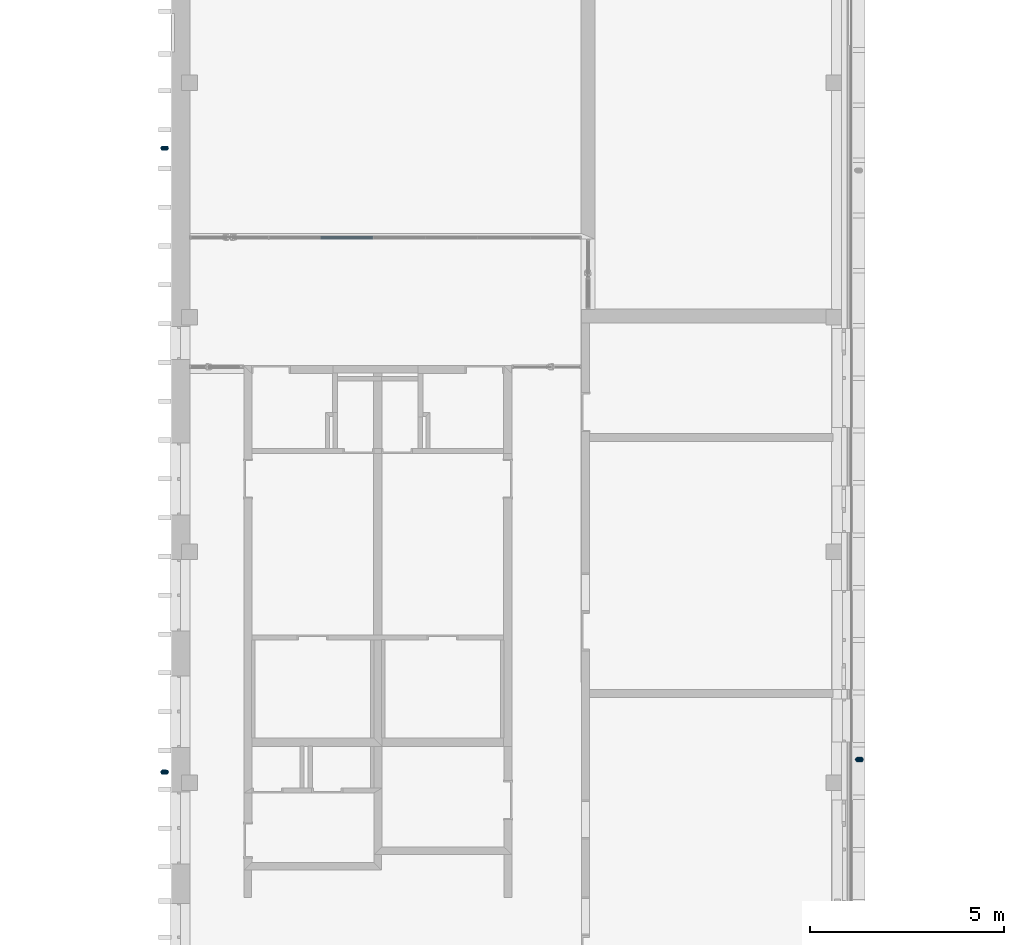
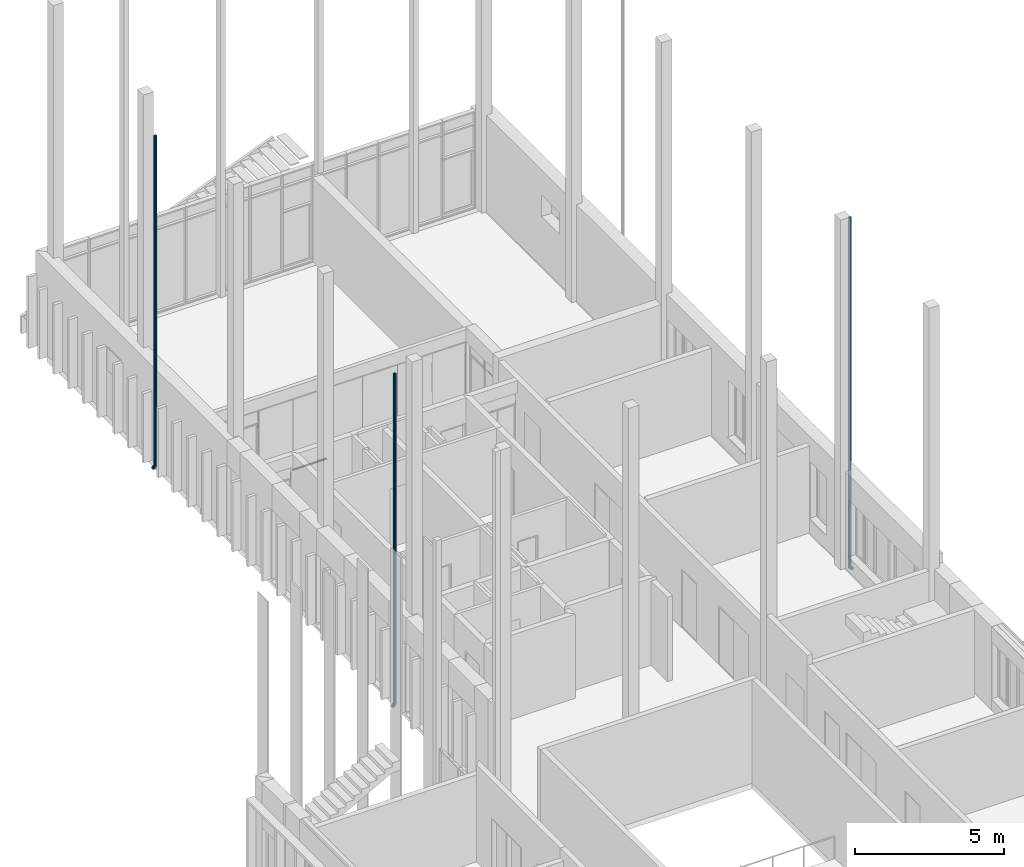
# One storey, part 22 of 89: 3 discrete accessories, 2 building element parts, 2 elements without a shape of their own.
"""IFC2X3 building model written with IfcOpenShell, lengths in millimetres."""

import ifcopenshell
import ifcopenshell.guid

model = None  # the IFC model being written
_history = None  # IfcOwnerHistory: only IFC2X3 demands one
_inside = {}  # id of a spatial element -> (the spatial element, [elements in it])
_under = {}  # id of a project, library or spatial element -> (it, [spatial elements below it])
_declared = {}  # id of a project -> (the project, [libraries it declares])
_typed = {}  # id of a type object -> (the type object, [elements of that type])
_made_of = {}  # id of a material, layer set ... -> (it, [elements and type objects made of it])


def new_model(schema):
    """Start an empty IFC model of exactly this schema.

    Asked for "IFC4X3", IfcOpenShell would pick the latest addendum, in which some entities
    have other attributes; the version numbers below select the first issue.
    IFC2X3 requires an IfcOwnerHistory on every rooted entity: one is made here for all.
    """
    global model, _history
    if schema == "IFC4X3":
        model = ifcopenshell.file(schema_version=(4, 3, 0, 0))
    else:
        model = ifcopenshell.file(schema=schema)
    _inside.clear()
    _under.clear()
    _declared.clear()
    _typed.clear()
    _made_of.clear()
    _history = None
    if model.schema == "IFC2X3":
        org = make("IfcOrganization", Name="unknown")
        user = make(
            "IfcPersonAndOrganization",
            ThePerson=make("IfcPerson", FamilyName="unknown"),
            TheOrganization=org,
        )
        app = make(
            "IfcApplication",
            ApplicationDeveloper=org,
            Version="unknown",
            ApplicationFullName="unknown",
            ApplicationIdentifier="unknown",
        )
        _history = make(
            "IfcOwnerHistory",
            OwningUser=user,
            OwningApplication=app,
            ChangeAction="ADDED",
            CreationDate=0,
        )
    return model


def make(cls, **values):
    """One entity of the class cls with the attributes given. An attribute that is None is left unset."""
    return model.create_entity(
        cls, **{name: value for name, value in values.items() if value is not None}
    )


def entity(cls, *values):
    """Any entity or typed value of the class cls, its attributes in the order of the schema. None: left unset."""
    e = model.create_entity(cls)
    for i, value in enumerate(values):
        if value is not None:
            e[i] = value
    return e


def rooted(cls, **values):
    """An entity with a GlobalId (a new one), such as an element, a storey or a relation."""
    return make(cls, GlobalId=ifcopenshell.guid.new(), OwnerHistory=_history, **values)


def si_unit(unit_type, name, prefix=None):
    """IfcSIUnit, for example si_unit("LENGTHUNIT", "METRE", prefix="MILLI")."""
    return make("IfcSIUnit", UnitType=unit_type, Prefix=prefix, Name=name)


def converted_unit(unit_type, name, factor, base, dimensions=None, offset=None):
    """IfcConversionBasedUnit, such as the inch: factor (a typed value) times the base unit."""
    return make(
        "IfcConversionBasedUnit"
        if offset is None
        else "IfcConversionBasedUnitWithOffset",
        ConversionOffset=offset,
        Dimensions=None
        if dimensions is None
        else entity("IfcDimensionalExponents", *dimensions),
        UnitType=unit_type,
        Name=name,
        ConversionFactor=make(
            "IfcMeasureWithUnit", ValueComponent=factor, UnitComponent=base
        ),
    )


def derived_unit(unit_type, elements):
    """IfcDerivedUnit: a product of units, each with its exponent."""
    return make(
        "IfcDerivedUnit",
        Elements=[
            make("IfcDerivedUnitElement", Unit=unit, Exponent=power)
            for unit, power in elements
        ],
        UnitType=unit_type,
    )


def money_unit(currency):
    """IfcMonetaryUnit."""
    return make("IfcMonetaryUnit", Currency=currency)


def assignment(units):
    """IfcUnitAssignment: the units of a project."""
    return None if units is None else make("IfcUnitAssignment", Units=units)


def point(xyz):
    """IfcCartesianPoint."""
    return None if xyz is None else make("IfcCartesianPoint", Coordinates=xyz)


def direction(xyz):
    """IfcDirection."""
    return None if xyz is None else make("IfcDirection", DirectionRatios=xyz)


def frame(location, z_axis=None, x_axis=None):
    """IfcAxis2Placement3D, a coordinate frame: its origin and axes. An axis left out is left unset."""
    return make(
        "IfcAxis2Placement3D",
        Location=point(location),
        Axis=direction(z_axis),
        RefDirection=direction(x_axis),
    )


def origin_with_axes():
    """The frame at (0, 0, 0) with the z axis (0, 0, 1) and the x axis (1, 0, 0) written out."""
    return frame((0.0, 0.0, 0.0), z_axis=(0.0, 0.0, 1.0), x_axis=(1.0, 0.0, 0.0))


def place(relative_to, where):
    """IfcLocalPlacement: puts the frame where relative to a parent placement (None: the world)."""
    return make(
        "IfcLocalPlacement", PlacementRelTo=relative_to, RelativePlacement=where
    )


def context(
    kind, dimensions, precision=None, world=None, true_north=None, identifier=None
):
    """IfcGeometricRepresentationContext, for example the 3D "Model" context."""
    return make(
        "IfcGeometricRepresentationContext",
        ContextIdentifier=identifier,
        ContextType=kind,
        CoordinateSpaceDimension=dimensions,
        Precision=precision,
        WorldCoordinateSystem=world,
        TrueNorth=true_north,
    )


def subcontext(parent, identifier, kind, view, scale=None):
    """IfcGeometricRepresentationSubContext, for example "Body" below "Model"."""
    return make(
        "IfcGeometricRepresentationSubContext",
        ContextIdentifier=identifier,
        ContextType=kind,
        ParentContext=parent,
        TargetScale=scale,
        TargetView=view,
    )


def project(units=None, contexts=None):
    """IfcProject with its units and contexts."""
    return rooted(
        "IfcProject",
        Name="project",
        RepresentationContexts=contexts,
        UnitsInContext=assignment(units),
    )


def spatial(cls, under=None, at=None, **own):
    """A site, building, storey or space (cls), placed at a placement, below another one or the project."""
    s = rooted(cls, ObjectPlacement=at, **own)
    if under is not None:
        _under.setdefault(under.id(), (under, []))[1].append(s)
    return s


def faces_of(points, faces, orient=None, outer=None):
    """IfcFace entities. A face is a list of loops; a loop is a list of indices into points, from 0.

    orient and outer hold one flag for each loop. By default every Orientation is true, the
    first loop of a face is its IfcFaceOuterBound and the others are IfcFaceBound.
    """
    made = []
    for i, loops in enumerate(faces):
        bounds = []
        for j, loop in enumerate(loops):
            is_outer = j == 0 if outer is None else outer[i][j]
            bounds.append(
                make(
                    "IfcFaceOuterBound" if is_outer else "IfcFaceBound",
                    Bound=make("IfcPolyLoop", Polygon=[points[k] for k in loop]),
                    Orientation=True if orient is None else orient[i][j],
                )
            )
        made.append(make("IfcFace", Bounds=bounds))
    return made


def open_shell(faces, orient=None, outer=None):
    """The faces of one IfcOpenShell. surface_model builds it on its shared points."""
    return ("IfcOpenShell", faces, orient, outer)


def faceted_brep(points, faces, orient=None, outer=None, voids=None):
    """IfcFacetedBrep: a solid bounded by flat faces; with voids (closed shells), ...WithVoids."""
    shared = [point(p) for p in points]
    hull = make("IfcClosedShell", CfsFaces=faces_of(shared, faces, orient, outer))
    if voids is None:
        return make("IfcFacetedBrep", Outer=hull)
    return make(
        "IfcFacetedBrepWithVoids",
        Outer=hull,
        Voids=[
            make(cls, CfsFaces=faces_of(shared, fs, o, b)) for cls, fs, o, b in voids
        ],
    )


def surface_model(cls, points, shells):
    """IfcFaceBasedSurfaceModel or IfcShellBasedSurfaceModel (cls): surfaces that need not close."""
    shared = [point(p) for p in points]
    made = [make(c, CfsFaces=faces_of(shared, fs, o, b)) for c, fs, o, b in shells]
    if cls == "IfcFaceBasedSurfaceModel":
        return make(cls, FbsmFaces=made)
    return make(cls, SbsmBoundary=made)


def shape(context_of_items, identifier, shape_type, items):
    """IfcShapeRepresentation: the items that make up one representation, for example the "Body"."""
    return make(
        "IfcShapeRepresentation",
        ContextOfItems=context_of_items,
        RepresentationIdentifier=identifier,
        RepresentationType=shape_type,
        Items=items,
    )


def source(mapping_origin, context_of_items, identifier, shape_type, items):
    """IfcRepresentationMap: a shape defined once, which mapped items show again and again."""
    return make(
        "IfcRepresentationMap",
        MappingOrigin=mapping_origin,
        MappedRepresentation=shape(context_of_items, identifier, shape_type, items),
    )


def transform(
    local_origin,
    x_axis=None,
    y_axis=None,
    z_axis=None,
    scale=None,
    scale2=None,
    scale3=None,
    uniform=True,
):
    """IfcCartesianTransformationOperator3D, or its non-uniform kind. x_axis, y_axis, z_axis: its Axis1, 2, 3."""
    if uniform:
        return make(
            "IfcCartesianTransformationOperator3D",
            Axis1=direction(x_axis),
            Axis2=direction(y_axis),
            LocalOrigin=point(local_origin),
            Scale=scale,
            Axis3=direction(z_axis),
        )
    return make(
        "IfcCartesianTransformationOperator3DnonUniform",
        Axis1=direction(x_axis),
        Axis2=direction(y_axis),
        LocalOrigin=point(local_origin),
        Scale=scale,
        Axis3=direction(z_axis),
        Scale2=scale2,
        Scale3=scale3,
    )


def mapped(mapping_source, mapping_target):
    """IfcMappedItem: shows the shape of a source again, moved by a transform."""
    return make(
        "IfcMappedItem", MappingSource=mapping_source, MappingTarget=mapping_target
    )


def material(Name=None, Category=None):
    """IfcMaterial."""
    return make("IfcMaterial", Name=Name, Category=Category)


def made_of(thing, what):
    """Note that an element or type object is made of a material, layer set ...; save() writes the relation."""
    if what is not None:
        _made_of.setdefault(what.id(), (what, []))[1].append(thing)
    return thing


def type_object(cls, material=None, **own):
    """A type object (cls), such as IfcWallType, which elements share."""
    return made_of(rooted(cls, **own), material)


def element(
    cls,
    number,
    at=None,
    inside=None,
    cuts=None,
    type_object=None,
    material=None,
    context=None,
    identifier="Body",
    shape_type=None,
    held_by="IfcProductDefinitionShape",
    body=None,
    shapes=None,
    **own,
):
    """One element of the class cls, such as IfcWall. Its Tag is "e" and its number.

    at: its placement. inside: the storey or other place that contains it. cuts: it is an
    opening in that element (IfcRelVoidsElement). A single representation is given by context,
    identifier, shape_type and body (its items); several are given by shapes. held_by: the class
    of the entity that holds the representations. save() writes the other relations.
    """
    e = rooted(cls, Tag="e%d" % number, ObjectPlacement=at, **own)
    if body is not None:
        shapes = [shape(context, identifier, shape_type, body)]
    if shapes is not None:
        e.Representation = make(held_by, Representations=shapes)
    if inside is not None:
        _inside.setdefault(inside.id(), (inside, []))[1].append(e)
    if cuts is not None:
        rooted(
            "IfcRelVoidsElement", RelatingBuildingElement=cuts, RelatedOpeningElement=e
        )
    if type_object is not None:
        _typed.setdefault(type_object.id(), (type_object, []))[1].append(e)
    return made_of(e, material)


def aggregate(whole, parts):
    """IfcRelAggregates: a whole, such as a stair, and the parts it consists of."""
    return rooted("IfcRelAggregates", RelatingObject=whole, RelatedObjects=parts)


def save(model, path):
    """Write the relations noted so far, then the file.

    IfcRelAggregates (storeys below a building ...), IfcRelContainedInSpatialStructure (elements
    in a storey), IfcRelDefinesByType, IfcRelAssociatesMaterial and IfcRelDeclares: one each for
    every whole, place, type object, material and project.
    """
    for whole, parts in _under.values():
        aggregate(whole, parts)
    for where, things in _inside.values():
        rooted(
            "IfcRelContainedInSpatialStructure",
            RelatedElements=things,
            RelatingStructure=where,
        )
    for kind, things in _typed.values():
        rooted("IfcRelDefinesByType", RelatedObjects=things, RelatingType=kind)
    for what, things in _made_of.values():
        rooted("IfcRelAssociatesMaterial", RelatedObjects=things, RelatingMaterial=what)
    for by, libraries in _declared.values():
        rooted("IfcRelDeclares", RelatingContext=by, RelatedDefinitions=libraries)
    model.write(path)


model = new_model("IFC2X3")

# Units and contexts
model_context = context("Model", 3, precision=0.01, world=origin_with_axes(), true_north=direction((0.0, 1.0)))
body_context = subcontext(model_context, "Body", "Model", "MODEL_VIEW")
ifc_project = project(units=[si_unit("LENGTHUNIT", "METRE", prefix="MILLI"), si_unit("AREAUNIT", "SQUARE_METRE"), si_unit("VOLUMEUNIT", "CUBIC_METRE"), converted_unit("PLANEANGLEUNIT", "DEGREE", entity("IfcPlaneAngleMeasure", 0.0174532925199), si_unit("PLANEANGLEUNIT", "RADIAN"), dimensions=[0, 0, 0, 0, 0, 0, 0]), si_unit("SOLIDANGLEUNIT", "STERADIAN"), money_unit("EUR"), converted_unit("TIMEUNIT", "Year", entity("IfcTimeMeasure", 31556926.0), si_unit("TIMEUNIT", "SECOND"), dimensions=[0, 0, 1, 0, 0, 0, 0]), si_unit("MASSUNIT", "GRAM", prefix="KILO"), si_unit("THERMODYNAMICTEMPERATUREUNIT", "DEGREE_CELSIUS"), si_unit("LUMINOUSINTENSITYUNIT", "LUMEN"), si_unit("ENERGYUNIT", "JOULE", prefix="MEGA"), derived_unit("THERMALCONDUCTANCEUNIT", [(si_unit("POWERUNIT", "WATT"), 1), (si_unit("LENGTHUNIT", "METRE"), -1), (si_unit("THERMODYNAMICTEMPERATUREUNIT", "KELVIN"), -1)]), derived_unit("SPECIFICHEATCAPACITYUNIT", [(si_unit("ENERGYUNIT", "JOULE"), 1), (si_unit("MASSUNIT", "GRAM", prefix="KILO"), -1), (si_unit("THERMODYNAMICTEMPERATUREUNIT", "KELVIN"), -1)]), derived_unit("MASSDENSITYUNIT", [(si_unit("MASSUNIT", "GRAM", prefix="KILO"), 1), (si_unit("VOLUMEUNIT", "CUBIC_METRE"), -1)])], contexts=[model_context])

# Site, building, storey
site_placement = place(None, origin_with_axes())
site = spatial("IfcSite", under=ifc_project, at=site_placement, Name="Puškini 31, Narva", CompositionType="ELEMENT")
building_placement = place(site_placement, origin_with_axes())
building = spatial("IfcBuilding", under=site, at=building_placement, Name="Narva Riigigümnaasium", CompositionType="ELEMENT")
storey_placement = place(building_placement, frame((0.0, 0.0, -3300.0), z_axis=(0.0, 0.0, 1.0), x_axis=(1.0, 0.0, 0.0)))
storey = spatial("IfcBuildingStorey", under=building, at=storey_placement, Name="1.korrus -3.3", CompositionType="ELEMENT", Elevation=-3300.0)

# Curtain wall, member, building element parts
curtain_wall_type = type_object("IfcCurtainWallType", Name="Curtain Wall Type", PredefinedType="NOTDEFINED")
curtain_wall_placement = place(storey_placement, frame((40014.000008, 243997.000057, -9.155864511e-06), z_axis=(0.0, 0.0, 1.0), x_axis=(1.0, 0.0, 0.0)))
curtain_wall = element("IfcCurtainWall", 1, at=curtain_wall_placement, inside=storey, type_object=curtain_wall_type, Name="G-SKLF-09")
member_type = type_object("IfcMemberType", Name="30 x -83", PredefinedType="MULLION")
member_placement = place(curtain_wall_placement, frame((763.999992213, 0.0, 0.0), z_axis=(1.0, 0.0, 0.0), x_axis=(0.0, 0.0, 1.0)))
member = element("IfcMember", 2, at=member_placement, type_object=member_type, Name="G-SKLF-40-raam", ObjectType="MULLION")
aggregate(curtain_wall, [member])
ifc_material_1 = material(Name="Klaasvill")
shared_shape_1 = source(origin_with_axes(), body_context, "Body", "Brep", [
    faceted_brep([(-7.49999990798, 20.000000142, 0.0), (-7.49999990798, 20.000000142, 1350.0), (-13.8499999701, 20.000000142, 1350.0), (-13.8499999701, 20.000000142, 0.0), (-7.49999990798, 34.0161444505, 0.0), (-7.49999990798, 34.0161444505, 1350.0), (-13.8499999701, 34.0161444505, 1350.0), (-13.8499999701, 34.0161444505, 0.0)], [[[0, 1, 2, 3]], [[4, 5, 1, 0]], [[1, 5, 6, 2]], [[3, 2, 6, 7]], [[0, 3, 7, 4]], [[7, 6, 5, 4]]]),
    faceted_brep([(-24.987414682, 34.0161444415, 0.0), (-24.987414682, 34.0161444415, 1350.0), (-25.004489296, 32.0307503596, 1350.0), (-25.004489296, 32.0307503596, 0.0), (-28.5126239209, 34.0161444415, 0.0), (-28.5126239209, 34.0161444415, 1350.0), (-28.7655837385, 33.0385325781, 1350.0), (-28.4955493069, 32.0307503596, 1350.0), (-27.75780152, 31.2930025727, 1350.0), (-26.7500193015, 31.0229681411, 1350.0), (-25.742237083, 31.2930025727, 1350.0), (-25.742237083, 31.2930025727, 0.0), (-26.7500193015, 31.0229681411, 0.0), (-27.75780152, 31.2930025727, 0.0), (-28.4955493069, 32.0307503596, 0.0), (-28.7655837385, 33.0385325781, 0.0)], [[[0, 1, 2, 3]], [[4, 5, 1, 0]], [[1, 5, 6, 7, 8, 9, 10, 2]], [[3, 2, 10, 11]], [[0, 3, 11, 12, 13, 14, 15, 4]], [[15, 6, 5, 4]], [[14, 7, 6, 15]], [[13, 8, 7, 14]], [[12, 9, 8, 13]], [[11, 10, 9, 12]]]),
    faceted_brep([(-7.49999990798, -19.9999997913, 0.0), (-7.49999990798, -19.9999997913, 1350.0), (-7.49999990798, -34.0161445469, 1350.0), (-7.49999990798, -34.0161445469, 0.0), (-13.8499999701, -19.9999997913, 0.0), (-13.8499999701, -19.9999997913, 1350.0), (-13.8499999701, -34.0161445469, 1350.0), (-13.8499999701, -34.0161445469, 0.0)], [[[0, 1, 2, 3]], [[4, 5, 1, 0]], [[1, 5, 6, 2]], [[3, 2, 6, 7]], [[0, 3, 7, 4]], [[7, 6, 5, 4]]]),
    faceted_brep([(-25.004489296, -32.0307503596, 0.0), (-25.004489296, -32.0307503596, 1350.0), (-24.987414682, -34.0161444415, 1350.0), (-24.987414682, -34.0161444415, 0.0), (-25.742237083, -31.2930025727, 0.0), (-25.742237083, -31.2930025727, 1350.0), (-26.7500193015, -31.0229681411, 1350.0), (-27.75780152, -31.2930025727, 1350.0), (-28.4955493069, -32.0307503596, 1350.0), (-28.7655837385, -33.0385325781, 1350.0), (-28.5126239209, -34.0161444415, 1350.0), (-28.5126239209, -34.0161444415, 0.0), (-28.7655837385, -33.0385325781, 0.0), (-28.4955493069, -32.0307503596, 0.0), (-27.75780152, -31.2930025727, 0.0), (-26.7500193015, -31.0229681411, 0.0)], [[[0, 1, 2, 3]], [[4, 5, 1, 0]], [[1, 5, 6, 7, 8, 9, 10, 2]], [[3, 2, 10, 11]], [[0, 3, 11, 12, 13, 14, 15, 4]], [[15, 6, 5, 4]], [[14, 7, 6, 15]], [[13, 8, 7, 14]], [[12, 9, 8, 13]], [[11, 10, 9, 12]]]),
])
building_element_part_1_placement = place(member_placement, origin_with_axes())
building_element_part_1 = element("IfcBuildingElementPart", 3, at=building_element_part_1_placement, material=ifc_material_1, Name="Klaasvill", context=body_context, shape_type="MappedRepresentation", body=[
    mapped(shared_shape_1, transform((0.0, 0.0, 0.0), x_axis=(-1.0, 0.0, 0.0), y_axis=(0.0, -1.0, 0.0), z_axis=(0.0, 0.0, 1.0))),
])
ifc_material_2 = material(Name="Teras RAL7012")
shared_shape_2 = source(origin_with_axes(), body_context, "Body", "Brep", [
    faceted_brep([(0.0, -17.0000000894, 0.0), (0.0, -17.0000000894, 1350.0), (-29.5999996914, -17.0000000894, 1350.0), (-29.5999996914, -17.0000000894, 0.0), (0.0, 17.0000000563, 0.0), (0.0, 17.0000000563, 1350.0), (-29.5999996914, 17.0000000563, 1350.0), (-1.9999999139, 15.0000001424, 1350.0), (-1.9999999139, -15.0000001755, 1350.0), (-18.7999996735, -15.0000001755, 1350.0), (-18.7999996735, 15.0000001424, 1350.0), (-29.5999996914, 17.0000000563, 0.0), (-1.9999999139, 15.0000001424, 0.0), (-18.7999996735, 15.0000001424, 0.0), (-18.7999996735, -15.0000001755, 0.0), (-1.9999999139, -15.0000001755, 0.0)], [[[0, 1, 2, 3]], [[4, 5, 1, 0]], [[1, 5, 6, 2], [7, 8, 9, 10]], [[3, 2, 6, 11]], [[0, 3, 11, 4], [12, 13, 14, 15]], [[11, 6, 5, 4]], [[15, 8, 7, 12]], [[14, 9, 8, 15]], [[13, 10, 9, 14]], [[12, 7, 10, 13]]]),
    faceted_brep([(0.0, 17.0, 0.0), (0.0, 17.0, 1350.0), (-29.5999996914, 17.0000000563, 1350.0), (-29.5999996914, 17.0000000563, 0.0), (0.0, 37.0, 0.0), (0.0, 37.0, 1350.0), (-30.0000193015, 37.0, 1350.0), (-30.0000193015, 34.0161444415, 1350.0), (-28.5126239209, 34.0161444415, 1350.0), (-24.987414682, 34.0161444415, 1350.0), (-13.8499999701, 34.0161444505, 1350.0), (-7.49999999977, 34.0161444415, 1350.0), (-7.49999999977, 20.0, 1350.0), (-13.8499999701, 20.000000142, 1350.0), (-30.0000193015, 20.0, 1350.0), (-30.0000193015, 17.0, 1350.0), (-30.0000193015, 17.0, 0.0), (-30.0000193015, 20.0, 0.0), (-13.8499999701, 20.000000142, 0.0), (-7.49999999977, 20.0, 0.0), (-7.49999999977, 34.0161444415, 0.0), (-13.8499999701, 34.0161444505, 0.0), (-24.987414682, 34.0161444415, 0.0), (-28.5126239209, 34.0161444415, 0.0), (-30.0000193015, 34.0161444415, 0.0), (-30.0000193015, 37.0, 0.0)], [[[0, 1, 2, 3]], [[4, 5, 1, 0]], [[1, 5, 6, 7, 8, 9, 10, 11, 12, 13, 14, 15, 2]], [[3, 2, 15, 16]], [[0, 3, 16, 17, 18, 19, 20, 21, 22, 23, 24, 25, 4]], [[25, 6, 5, 4]], [[24, 7, 6, 25]], [[23, 8, 7, 24]], [[22, 9, 8, 23]], [[21, 10, 9, 22]], [[20, 11, 10, 21]], [[19, 12, 11, 20]], [[18, 13, 12, 19]], [[17, 14, 13, 18]], [[16, 15, 14, 17]]]),
    faceted_brep([(0.0, -17.0, 0.0), (0.0, -17.0, 1350.0), (0.0, -37.0, 1350.0), (0.0, -37.0, 0.0), (-29.5999996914, -17.0000000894, 0.0), (-29.5999996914, -17.0000000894, 1350.0), (-30.0000193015, -17.0, 1350.0), (-30.0000193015, -20.0, 1350.0), (-13.8499999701, -19.9999997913, 1350.0), (-7.49999999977, -20.0, 1350.0), (-7.49999999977, -34.0161444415, 1350.0), (-13.8499999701, -34.0161445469, 1350.0), (-24.987414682, -34.0161444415, 1350.0), (-28.5126239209, -34.0161444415, 1350.0), (-30.0000193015, -34.0161444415, 1350.0), (-30.0000193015, -37.0, 1350.0), (-30.0000193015, -37.0, 0.0), (-30.0000193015, -34.0161444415, 0.0), (-28.5126239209, -34.0161444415, 0.0), (-24.987414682, -34.0161444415, 0.0), (-13.8499999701, -34.0161445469, 0.0), (-7.49999999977, -34.0161444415, 0.0), (-7.49999999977, -20.0, 0.0), (-13.8499999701, -19.9999997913, 0.0), (-30.0000193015, -20.0, 0.0), (-30.0000193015, -17.0, 0.0)], [[[0, 1, 2, 3]], [[4, 5, 1, 0]], [[1, 5, 6, 7, 8, 9, 10, 11, 12, 13, 14, 15, 2]], [[3, 2, 15, 16]], [[0, 3, 16, 17, 18, 19, 20, 21, 22, 23, 24, 25, 4]], [[25, 6, 5, 4]], [[24, 7, 6, 25]], [[23, 8, 7, 24]], [[22, 9, 8, 23]], [[21, 10, 9, 22]], [[20, 11, 10, 21]], [[19, 12, 11, 20]], [[18, 13, 12, 19]], [[17, 14, 13, 18]], [[16, 15, 14, 17]]]),
])
building_element_part_2_placement = place(member_placement, origin_with_axes())
building_element_part_2 = element("IfcBuildingElementPart", 4, at=building_element_part_2_placement, material=ifc_material_2, Name="Teras RAL7012", context=body_context, shape_type="MappedRepresentation", body=[
    mapped(shared_shape_2, transform((0.0, 0.0, 0.0), x_axis=(-1.0, 0.0, 0.0), y_axis=(0.0, -1.0, 0.0), z_axis=(0.0, 0.0, 1.0))),
])
aggregate(member, [building_element_part_1, building_element_part_2])

# Discrete accessories
discrete_accessory_type = type_object("IfcDiscreteAccessoryType", Name="Downspout Complex 23")
shared_shape_3 = source(origin_with_axes(), body_context, "Body", "SurfaceModel", [
    surface_model("IfcShellBasedSurfaceModel", [(-62.5, -37.5, 250.260191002), (-57.742470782, -13.5822854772, 250.260191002), (-57.742470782, -13.5822854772, 140.353149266), (-62.5, -37.5, 150.260191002), (-44.1941738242, 6.69417382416, 250.260191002), (-44.1941738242, 6.69417382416, 131.954364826), (-57.742470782, -126.653639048, 27.2817956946), (-62.5, -143.566017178, 44.1941738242), (-57.742470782, -61.4177145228, 250.260191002), (-57.742470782, -61.4177145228, 160.167232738), (-23.9177145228, 20.242470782, 250.260191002), (-23.9177145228, 20.242470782, 126.342476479), (-44.1941738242, -112.316017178, 12.9441738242), (-57.742470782, -160.478395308, 61.1065519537), (-44.1941738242, -81.6941738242, 250.260191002), (-44.1941738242, -81.6941738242, 168.566017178), (0.0, 25.0, 250.260191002), (0.0, 25.0, 124.371843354), (-23.9177145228, -102.735924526, 3.36408117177), (-44.1941738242, -174.816017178, 75.4441738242), (-23.9177145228, -95.242470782, 250.260191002), (-23.9177145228, -95.242470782, 174.177905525), (23.9177145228, 20.242470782, 250.260191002), (23.9177145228, 20.242470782, 126.342476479), (0.0, -99.3718433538, 0.0), (-23.9177145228, -184.39610983, 85.0242664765), (0.0, -100.0, 250.260191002), (0.0, -100.0, 176.14853865), (44.1941738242, 6.69417382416, 250.260191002), (44.1941738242, 6.69417382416, 131.954364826), (23.9177145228, -102.735924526, 3.36408117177), (0.0, -187.760191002, 88.3883476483), (23.9177145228, -95.242470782, 250.260191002), (23.9177145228, -95.242470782, 174.177905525), (57.742470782, -13.5822854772, 250.260191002), (57.742470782, -13.5822854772, 140.353149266), (44.1941738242, -112.316017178, 12.9441738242), (23.9177145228, -184.39610983, 85.0242664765), (44.1941738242, -81.6941738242, 250.260191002), (44.1941738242, -81.6941738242, 168.566017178), (62.5, -37.5, 250.260191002), (62.5, -37.5, 150.260191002), (57.742470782, -126.653639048, 27.2817956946), (44.1941738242, -174.816017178, 75.4441738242), (57.742470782, -61.4177145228, 250.260191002), (57.742470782, -61.4177145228, 160.167232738), (62.5, -143.566017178, 44.1941738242), (57.742470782, -160.478395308, 61.1065519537)], [open_shell([[[0, 1, 2, 3]], [[1, 4, 5, 2]], [[3, 2, 6, 7]], [[8, 0, 3, 9]], [[4, 10, 11, 5]], [[2, 5, 12, 6]], [[9, 3, 7, 13]], [[14, 8, 9, 15]], [[10, 16, 17, 11]], [[5, 11, 18, 12]], [[15, 9, 13, 19]], [[20, 14, 15, 21]], [[16, 22, 23, 17]], [[11, 17, 24, 18]], [[21, 15, 19, 25]], [[26, 20, 21, 27]], [[22, 28, 29, 23]], [[17, 23, 30, 24]], [[27, 21, 25, 31]], [[32, 26, 27, 33]], [[28, 34, 35, 29]], [[23, 29, 36, 30]], [[33, 27, 31, 37]], [[38, 32, 33, 39]], [[34, 40, 41, 35]], [[29, 35, 42, 36]], [[39, 33, 37, 43]], [[44, 38, 39, 45]], [[40, 44, 45, 41]], [[35, 41, 46, 42]], [[45, 39, 43, 47]], [[41, 45, 47, 46]]])]),
    surface_model("IfcShellBasedSurfaceModel", [(62.5, -37.5, 13654.5494147), (57.742470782, -61.4177145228, 13654.5494147), (57.742470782, -61.4177145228, 250.260191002), (62.5, -37.5, 250.260191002), (44.1941738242, -81.6941738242, 13654.5494147), (44.1941738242, -81.6941738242, 250.260191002), (57.742470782, -13.5822854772, 13654.5494147), (57.742470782, -13.5822854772, 250.260191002), (23.9177145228, -95.242470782, 13654.5494147), (23.9177145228, -95.242470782, 250.260191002), (44.1941738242, 6.69417382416, 13654.5494147), (44.1941738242, 6.69417382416, 250.260191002), (0.0, -100.0, 13654.5494147), (0.0, -100.0, 250.260191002), (23.9177145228, 20.242470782, 13654.5494147), (23.9177145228, 20.242470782, 250.260191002), (-23.9177145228, -95.242470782, 13654.5494147), (-23.9177145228, -95.242470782, 250.260191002), (0.0, 25.0, 13654.5494147), (0.0, 25.0, 250.260191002), (-44.1941738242, -81.6941738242, 13654.5494147), (-44.1941738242, -81.6941738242, 250.260191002), (-23.9177145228, 20.242470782, 13654.5494147), (-23.9177145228, 20.242470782, 250.260191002), (-57.742470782, -61.4177145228, 13654.5494147), (-57.742470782, -61.4177145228, 250.260191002), (-44.1941738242, 6.69417382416, 13654.5494147), (-44.1941738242, 6.69417382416, 250.260191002), (-62.5, -37.5, 13654.5494147), (-62.5, -37.5, 250.260191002), (-57.742470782, -13.5822854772, 13654.5494147), (-57.742470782, -13.5822854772, 250.260191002)], [open_shell([[[0, 1, 2, 3]], [[1, 4, 5, 2]], [[6, 0, 3, 7]], [[4, 8, 9, 5]], [[10, 6, 7, 11]], [[8, 12, 13, 9]], [[14, 10, 11, 15]], [[12, 16, 17, 13]], [[18, 14, 15, 19]], [[16, 20, 21, 17]], [[22, 18, 19, 23]], [[20, 24, 25, 21]], [[26, 22, 23, 27]], [[24, 28, 29, 25]], [[30, 26, 27, 31]], [[28, 30, 31, 29]]])]),
])
for number, where, z_axis, x_axis in (
    (5, (36842.0000002, 230226.305848, 44.7796288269), (0.0, 0.0, 1.0), (-1.60234957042e-07, -1.0, 0.0)),
    (6, (36842.0000002, 246306.305848, 44.7796288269), (0.0, 0.0, 1.0), (-1.60234957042e-07, -1.0, 0.0)),
):
    element("IfcDiscreteAccessory", number, at=place(storey_placement, frame(where, z_axis=z_axis, x_axis=x_axis)), inside=storey, type_object=discrete_accessory_type, Name="Vihmaveetoru", context=body_context, shape_type="MappedRepresentation", body=[
        mapped(shared_shape_3, transform((0.0, 0.0, 0.0))),
    ])
shared_shape_4 = source(origin_with_axes(), body_context, "Body", "SurfaceModel", [
    surface_model("IfcShellBasedSurfaceModel", [(62.5, -37.5, 250.260191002), (62.5, -37.5, 150.260191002), (57.742470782, -13.5822854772, 140.353149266), (57.742470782, -13.5822854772, 250.260191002), (57.742470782, -61.4177145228, 250.260191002), (57.742470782, -61.4177145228, 160.167232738), (62.5, -143.566017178, 44.1941738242), (57.742470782, -126.653639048, 27.2817956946), (44.1941738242, 6.69417382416, 131.954364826), (44.1941738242, 6.69417382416, 250.260191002), (44.1941738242, -81.6941738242, 250.260191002), (44.1941738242, -81.6941738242, 168.566017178), (57.742470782, -160.478395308, 61.1065519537), (44.1941738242, -112.316017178, 12.9441738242), (23.9177145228, 20.242470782, 126.342476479), (23.9177145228, 20.242470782, 250.260191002), (23.9177145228, -95.242470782, 250.260191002), (23.9177145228, -95.242470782, 174.177905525), (44.1941738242, -174.816017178, 75.4441738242), (23.9177145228, -102.735924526, 3.36408117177), (0.0, 25.0, 124.371843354), (0.0, 25.0, 250.260191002), (0.0, -100.0, 250.260191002), (0.0, -100.0, 176.14853865), (23.9177145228, -184.39610983, 85.0242664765), (0.0, -99.3718433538, 0.0), (-23.9177145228, 20.242470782, 126.342476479), (-23.9177145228, 20.242470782, 250.260191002), (-23.9177145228, -95.242470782, 250.260191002), (-23.9177145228, -95.242470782, 174.177905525), (0.0, -187.760191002, 88.3883476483), (-23.9177145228, -102.735924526, 3.36408117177), (-44.1941738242, 6.69417382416, 131.954364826), (-44.1941738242, 6.69417382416, 250.260191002), (-44.1941738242, -81.6941738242, 250.260191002), (-44.1941738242, -81.6941738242, 168.566017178), (-23.9177145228, -184.39610983, 85.0242664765), (-44.1941738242, -112.316017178, 12.9441738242), (-57.742470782, -13.5822854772, 140.353149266), (-57.742470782, -13.5822854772, 250.260191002), (-57.742470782, -61.4177145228, 250.260191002), (-57.742470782, -61.4177145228, 160.167232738), (-44.1941738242, -174.816017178, 75.4441738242), (-57.742470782, -126.653639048, 27.2817956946), (-62.5, -37.5, 150.260191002), (-62.5, -37.5, 250.260191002), (-57.742470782, -160.478395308, 61.1065519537), (-62.5, -143.566017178, 44.1941738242)], [open_shell([[[0, 1, 2, 3]], [[4, 5, 1, 0]], [[1, 6, 7, 2]], [[3, 2, 8, 9]], [[10, 11, 5, 4]], [[5, 12, 6, 1]], [[2, 7, 13, 8]], [[9, 8, 14, 15]], [[16, 17, 11, 10]], [[11, 18, 12, 5]], [[8, 13, 19, 14]], [[15, 14, 20, 21]], [[22, 23, 17, 16]], [[17, 24, 18, 11]], [[14, 19, 25, 20]], [[21, 20, 26, 27]], [[28, 29, 23, 22]], [[23, 30, 24, 17]], [[20, 25, 31, 26]], [[27, 26, 32, 33]], [[34, 35, 29, 28]], [[29, 36, 30, 23]], [[26, 31, 37, 32]], [[33, 32, 38, 39]], [[40, 41, 35, 34]], [[35, 42, 36, 29]], [[32, 37, 43, 38]], [[39, 38, 44, 45]], [[45, 44, 41, 40]], [[41, 46, 42, 35]], [[38, 43, 47, 44]], [[44, 47, 46, 41]]])]),
    surface_model("IfcShellBasedSurfaceModel", [(-62.5, -37.5, 14475.5445044), (-62.5, -37.5, 250.260191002), (-57.742470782, -61.4177145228, 250.260191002), (-57.742470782, -61.4177145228, 14475.5445044), (-57.742470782, -13.5822854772, 14475.5445044), (-57.742470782, -13.5822854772, 250.260191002), (-44.1941738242, -81.6941738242, 250.260191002), (-44.1941738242, -81.6941738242, 14475.5445044), (-44.1941738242, 6.69417382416, 14475.5445044), (-44.1941738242, 6.69417382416, 250.260191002), (-23.9177145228, -95.242470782, 250.260191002), (-23.9177145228, -95.242470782, 14475.5445044), (-23.9177145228, 20.242470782, 14475.5445044), (-23.9177145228, 20.242470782, 250.260191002), (0.0, -100.0, 250.260191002), (0.0, -100.0, 14475.5445044), (0.0, 25.0, 14475.5445044), (0.0, 25.0, 250.260191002), (23.9177145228, -95.242470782, 250.260191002), (23.9177145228, -95.242470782, 14475.5445044), (23.9177145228, 20.242470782, 14475.5445044), (23.9177145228, 20.242470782, 250.260191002), (44.1941738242, -81.6941738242, 250.260191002), (44.1941738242, -81.6941738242, 14475.5445044), (44.1941738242, 6.69417382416, 14475.5445044), (44.1941738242, 6.69417382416, 250.260191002), (57.742470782, -61.4177145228, 250.260191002), (57.742470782, -61.4177145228, 14475.5445044), (57.742470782, -13.5822854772, 14475.5445044), (57.742470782, -13.5822854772, 250.260191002), (62.5, -37.5, 250.260191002), (62.5, -37.5, 14475.5445044)], [open_shell([[[0, 1, 2, 3]], [[4, 5, 1, 0]], [[3, 2, 6, 7]], [[8, 9, 5, 4]], [[7, 6, 10, 11]], [[12, 13, 9, 8]], [[11, 10, 14, 15]], [[16, 17, 13, 12]], [[15, 14, 18, 19]], [[20, 21, 17, 16]], [[19, 18, 22, 23]], [[24, 25, 21, 20]], [[23, 22, 26, 27]], [[28, 29, 25, 24]], [[27, 26, 30, 31]], [[31, 30, 29, 28]]])]),
])
discrete_accessory_placement = place(storey_placement, frame((54580.012949, 230550.18417, -792.139624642), z_axis=(0.0, 0.0, 1.0), x_axis=(0.0, 1.0, 0.0)))
element("IfcDiscreteAccessory", 7, at=discrete_accessory_placement, inside=storey, type_object=discrete_accessory_type, Name="Vihmaveetoru", context=body_context, shape_type="MappedRepresentation", body=[
    mapped(shared_shape_4, transform((0.0, 0.0, 0.0))),
])

save(model, "model.ifc")
